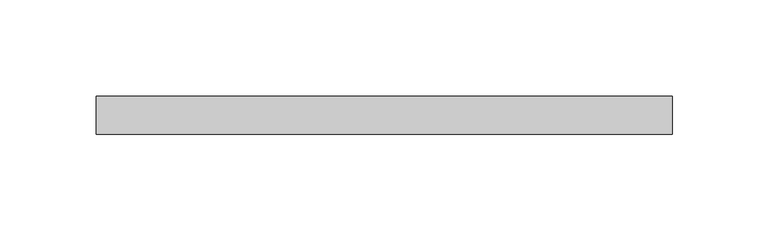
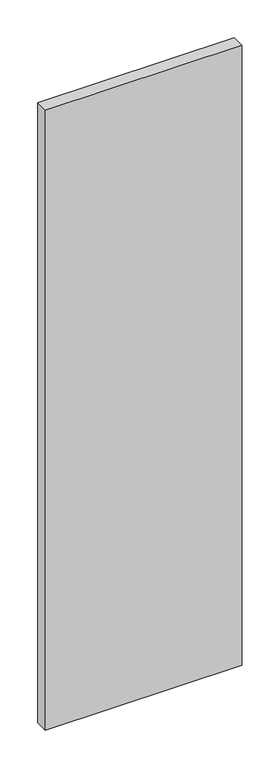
"""IFC4 building model written with IfcOpenShell, lengths in millimetres: furniture geometry, Apoio Lateral do Painel de TV : Apoio Lateral do Painel de TV."""

import ifcopenshell
import ifcopenshell.guid

model = None  # the IFC model being written
_history = None  # IfcOwnerHistory: only IFC2X3 demands one
_inside = {}  # id of a spatial element -> (the spatial element, [elements in it])
_under = {}  # id of a project, library or spatial element -> (it, [spatial elements below it])
_declared = {}  # id of a project -> (the project, [libraries it declares])
_typed = {}  # id of a type object -> (the type object, [elements of that type])
_made_of = {}  # id of a material, layer set ... -> (it, [elements and type objects made of it])


def new_model(schema):
    """Start an empty IFC model of exactly this schema.

    Asked for "IFC4X3", IfcOpenShell would pick the latest addendum, in which some entities
    have other attributes; the version numbers below select the first issue.
    IFC2X3 requires an IfcOwnerHistory on every rooted entity: one is made here for all.
    """
    global model, _history
    if schema == "IFC4X3":
        model = ifcopenshell.file(schema_version=(4, 3, 0, 0))
    else:
        model = ifcopenshell.file(schema=schema)
    _inside.clear()
    _under.clear()
    _declared.clear()
    _typed.clear()
    _made_of.clear()
    _history = None
    if model.schema == "IFC2X3":
        org = make("IfcOrganization", Name="unknown")
        user = make(
            "IfcPersonAndOrganization",
            ThePerson=make("IfcPerson", FamilyName="unknown"),
            TheOrganization=org,
        )
        app = make(
            "IfcApplication",
            ApplicationDeveloper=org,
            Version="unknown",
            ApplicationFullName="unknown",
            ApplicationIdentifier="unknown",
        )
        _history = make(
            "IfcOwnerHistory",
            OwningUser=user,
            OwningApplication=app,
            ChangeAction="ADDED",
            CreationDate=0,
        )
    return model


def make(cls, **values):
    """One entity of the class cls with the attributes given. An attribute that is None is left unset."""
    return model.create_entity(
        cls, **{name: value for name, value in values.items() if value is not None}
    )


def rooted(cls, **values):
    """An entity with a GlobalId (a new one), such as an element, a storey or a relation."""
    return make(cls, GlobalId=ifcopenshell.guid.new(), OwnerHistory=_history, **values)


def si_unit(unit_type, name, prefix=None):
    """IfcSIUnit, for example si_unit("LENGTHUNIT", "METRE", prefix="MILLI")."""
    return make("IfcSIUnit", UnitType=unit_type, Prefix=prefix, Name=name)


def assignment(units):
    """IfcUnitAssignment: the units of a project."""
    return None if units is None else make("IfcUnitAssignment", Units=units)


def point(xyz):
    """IfcCartesianPoint."""
    return None if xyz is None else make("IfcCartesianPoint", Coordinates=xyz)


def direction(xyz):
    """IfcDirection."""
    return None if xyz is None else make("IfcDirection", DirectionRatios=xyz)


def frame(location, z_axis=None, x_axis=None):
    """IfcAxis2Placement3D, a coordinate frame: its origin and axes. An axis left out is left unset."""
    return make(
        "IfcAxis2Placement3D",
        Location=point(location),
        Axis=direction(z_axis),
        RefDirection=direction(x_axis),
    )


def origin():
    """The frame at (0, 0, 0) with its axes left unset."""
    return frame((0.0, 0.0, 0.0))


def origin_with_axes():
    """The frame at (0, 0, 0) with the z axis (0, 0, 1) and the x axis (1, 0, 0) written out."""
    return frame((0.0, 0.0, 0.0), z_axis=(0.0, 0.0, 1.0), x_axis=(1.0, 0.0, 0.0))


def place(relative_to, where):
    """IfcLocalPlacement: puts the frame where relative to a parent placement (None: the world)."""
    return make(
        "IfcLocalPlacement", PlacementRelTo=relative_to, RelativePlacement=where
    )


def context(
    kind, dimensions, precision=None, world=None, true_north=None, identifier=None
):
    """IfcGeometricRepresentationContext, for example the 3D "Model" context."""
    return make(
        "IfcGeometricRepresentationContext",
        ContextIdentifier=identifier,
        ContextType=kind,
        CoordinateSpaceDimension=dimensions,
        Precision=precision,
        WorldCoordinateSystem=world,
        TrueNorth=true_north,
    )


def project(units=None, contexts=None):
    """IfcProject with its units and contexts."""
    return rooted(
        "IfcProject",
        Name="project",
        RepresentationContexts=contexts,
        UnitsInContext=assignment(units),
    )


def spatial(cls, under=None, at=None, **own):
    """A site, building, storey or space (cls), placed at a placement, below another one or the project."""
    s = rooted(cls, ObjectPlacement=at, **own)
    if under is not None:
        _under.setdefault(under.id(), (under, []))[1].append(s)
    return s


def polyline(points):
    """IfcPolyline through the points."""
    return make("IfcPolyline", Points=[point(p) for p in points])


def outline(outer, holes=None, kind="AREA"):
    """IfcArbitraryClosedProfileDef: a profile drawn as a closed curve; with holes, ...WithVoids."""
    if holes is None:
        return make("IfcArbitraryClosedProfileDef", ProfileType=kind, OuterCurve=outer)
    return make(
        "IfcArbitraryProfileDefWithVoids",
        ProfileType=kind,
        OuterCurve=outer,
        InnerCurves=holes,
    )


def extrude(swept, where, along, depth):
    """IfcExtrudedAreaSolid: the profile swept, set in the frame where, extruded along a direction by depth."""
    return make(
        "IfcExtrudedAreaSolid",
        SweptArea=swept,
        Position=where,
        ExtrudedDirection=direction(along),
        Depth=depth,
    )


def shape(context_of_items, identifier, shape_type, items):
    """IfcShapeRepresentation: the items that make up one representation, for example the "Body"."""
    return make(
        "IfcShapeRepresentation",
        ContextOfItems=context_of_items,
        RepresentationIdentifier=identifier,
        RepresentationType=shape_type,
        Items=items,
    )


def source(mapping_origin, context_of_items, identifier, shape_type, items):
    """IfcRepresentationMap: a shape defined once, which mapped items show again and again."""
    return make(
        "IfcRepresentationMap",
        MappingOrigin=mapping_origin,
        MappedRepresentation=shape(context_of_items, identifier, shape_type, items),
    )


def transform(
    local_origin,
    x_axis=None,
    y_axis=None,
    z_axis=None,
    scale=None,
    scale2=None,
    scale3=None,
    uniform=True,
):
    """IfcCartesianTransformationOperator3D, or its non-uniform kind. x_axis, y_axis, z_axis: its Axis1, 2, 3."""
    if uniform:
        return make(
            "IfcCartesianTransformationOperator3D",
            Axis1=direction(x_axis),
            Axis2=direction(y_axis),
            LocalOrigin=point(local_origin),
            Scale=scale,
            Axis3=direction(z_axis),
        )
    return make(
        "IfcCartesianTransformationOperator3DnonUniform",
        Axis1=direction(x_axis),
        Axis2=direction(y_axis),
        LocalOrigin=point(local_origin),
        Scale=scale,
        Axis3=direction(z_axis),
        Scale2=scale2,
        Scale3=scale3,
    )


def mapped(mapping_source, mapping_target):
    """IfcMappedItem: shows the shape of a source again, moved by a transform."""
    return make(
        "IfcMappedItem", MappingSource=mapping_source, MappingTarget=mapping_target
    )


def made_of(thing, what):
    """Note that an element or type object is made of a material, layer set ...; save() writes the relation."""
    if what is not None:
        _made_of.setdefault(what.id(), (what, []))[1].append(thing)
    return thing


def element(
    cls,
    number,
    at=None,
    inside=None,
    cuts=None,
    type_object=None,
    material=None,
    context=None,
    identifier="Body",
    shape_type=None,
    held_by="IfcProductDefinitionShape",
    body=None,
    shapes=None,
    **own,
):
    """One element of the class cls, such as IfcWall. Its Tag is "e" and its number.

    at: its placement. inside: the storey or other place that contains it. cuts: it is an
    opening in that element (IfcRelVoidsElement). A single representation is given by context,
    identifier, shape_type and body (its items); several are given by shapes. held_by: the class
    of the entity that holds the representations. save() writes the other relations.
    """
    e = rooted(cls, Tag="e%d" % number, ObjectPlacement=at, **own)
    if body is not None:
        shapes = [shape(context, identifier, shape_type, body)]
    if shapes is not None:
        e.Representation = make(held_by, Representations=shapes)
    if inside is not None:
        _inside.setdefault(inside.id(), (inside, []))[1].append(e)
    if cuts is not None:
        rooted(
            "IfcRelVoidsElement", RelatingBuildingElement=cuts, RelatedOpeningElement=e
        )
    if type_object is not None:
        _typed.setdefault(type_object.id(), (type_object, []))[1].append(e)
    return made_of(e, material)


def aggregate(whole, parts):
    """IfcRelAggregates: a whole, such as a stair, and the parts it consists of."""
    return rooted("IfcRelAggregates", RelatingObject=whole, RelatedObjects=parts)


def save(model, path):
    """Write the relations noted so far, then the file.

    IfcRelAggregates (storeys below a building ...), IfcRelContainedInSpatialStructure (elements
    in a storey), IfcRelDefinesByType, IfcRelAssociatesMaterial and IfcRelDeclares: one each for
    every whole, place, type object, material and project.
    """
    for whole, parts in _under.values():
        aggregate(whole, parts)
    for where, things in _inside.values():
        rooted(
            "IfcRelContainedInSpatialStructure",
            RelatedElements=things,
            RelatingStructure=where,
        )
    for kind, things in _typed.values():
        rooted("IfcRelDefinesByType", RelatedObjects=things, RelatingType=kind)
    for what, things in _made_of.values():
        rooted("IfcRelAssociatesMaterial", RelatedObjects=things, RelatingMaterial=what)
    for by, libraries in _declared.values():
        rooted("IfcRelDeclares", RelatingContext=by, RelatedDefinitions=libraries)
    model.write(path)


def furniture_a2fd005c(model_context):
    return source(origin(), model_context, "Body", "SweptSolid", [
        extrude(outline(polyline([(300.0, 20.0), (300.0, 0.0), (0.0, 0.0), (0.0, 20.0), (300.0, 20.0)])), origin_with_axes(), (0.0, 0.0, 1.0), 1000.0),
    ])


if __name__ == "__main__":
    model = new_model("IFC4")
    model_context = context("Model", 3, world=origin())
    ifc_project = project(units=[si_unit("LENGTHUNIT", "METRE", prefix="MILLI")], contexts=[model_context])
    site = spatial("IfcSite", under=ifc_project)
    building = spatial("IfcBuilding", under=site)
    placement = place(None, origin())
    furniture_shape = furniture_a2fd005c(model_context)
    element("IfcFurniture", 1, ObjectType="Apoio Lateral do Painel de TV : Apoio Lateral do Painel de TV", at=placement, inside=building, context=model_context, shape_type="MappedRepresentation", body=[
        mapped(furniture_shape, transform((0.0, 0.0, 0.0), x_axis=(1.0, 0.0, 0.0), y_axis=(0.0, 1.0, 0.0), z_axis=(0.0, 0.0, 1.0))),
    ])
    save(model, "model.ifc")
